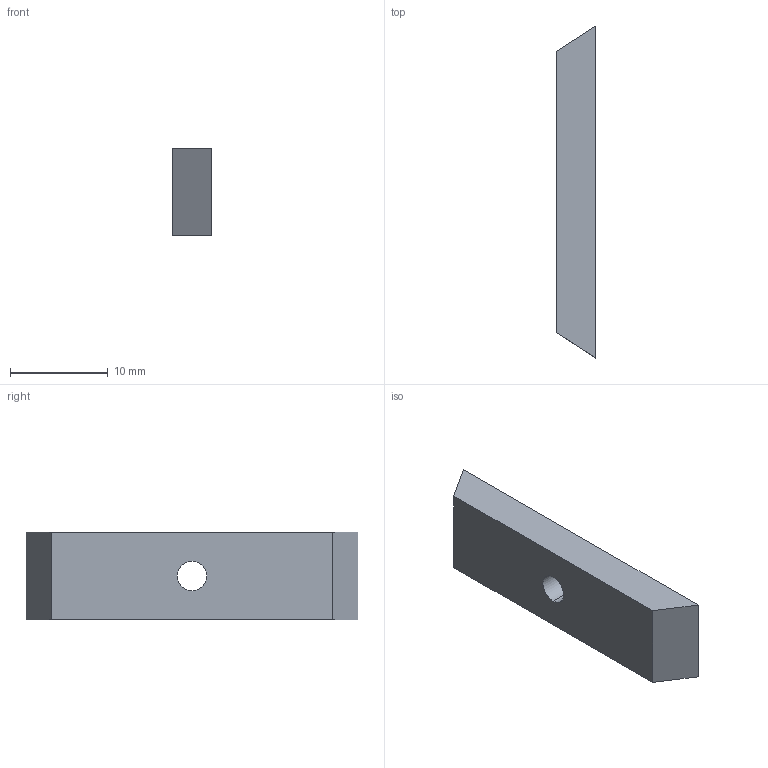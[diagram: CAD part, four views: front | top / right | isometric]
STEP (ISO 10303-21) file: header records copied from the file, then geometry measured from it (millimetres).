
FILE_DESCRIPTION(('STEP AP214'),'1');
FILE_NAME('tmp0.step','2025-04-11T19:33:15',(' '),(' '),'Spatial InterOp 3D',' ',' ');
FILE_SCHEMA(('AUTOMOTIVE_DESIGN { 1 0 10303 214 1 1 1 1 }'));
Length unit declared in the file: millimetre
Products named in the file (1): 1
Bounding box: 4 x 34 x 9 mm (x, y, z)
Volume: 1102.2 mm3; surface area: 925.9 mm2
Topology: 1 solids, 1 shells, 8 faces, 18 edges, 12 vertices
Faces by surface type: plane 6, cylinder 2
Entity records: 255 total; most frequent: DIRECTION 40, CARTESIAN_POINT 39, ORIENTED_EDGE 36, EDGE_CURVE 18, LINE 14, VECTOR 14, AXIS2_PLACEMENT_3D 13, VERTEX_POINT 12
